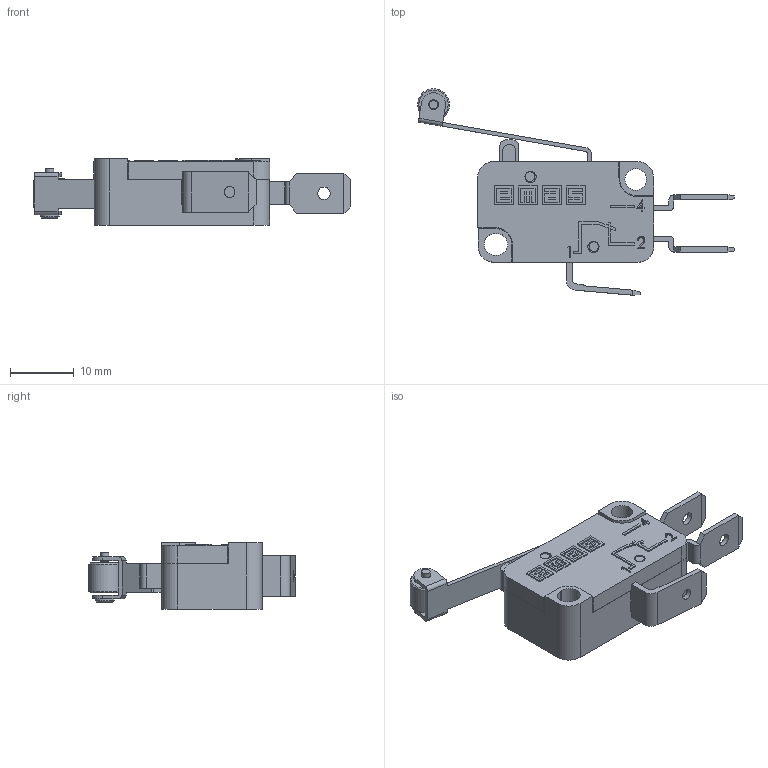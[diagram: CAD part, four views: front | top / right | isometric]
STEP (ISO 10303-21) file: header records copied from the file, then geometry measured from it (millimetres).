
FILE_DESCRIPTION((''),'2; 1');
FILE_NAME('','2026-03-27T16:20:25',(''),(''),'CST STEP Exporter V1.0','Unknown','');
FILE_SCHEMA(('CONFIG_CONTROL_DESIGN'));
Length unit declared in the file: metre
Assembly tree (12 placements, depth 2):
  (unnamed)
    (unnamed)
    (unnamed)
    (unnamed)
    (unnamed)
    (unnamed)
    (unnamed)
    (unnamed)
    (unnamed)
    (unnamed)
    (unnamed)
    (unnamed)
    (unnamed)
Bounding box: 49.8 x 32.46 x 10.4 mm (x, y, z)
Surface area: 7625.6 mm2 (no closed solid volume)
Topology: 0 solids, 12 shells, 305 faces, 1089 edges, 808 vertices
Faces by surface type: plane 252, cylinder 44, extrusion 6, cone 3
Full cylindrical faces by diameter (mm): 1.3 x1, 1.5 x3, 1.7 x1, 1.75 x2, 1.95 x2, 3 x1, 3.4 x1, 5 x1
Entity records: 14254 total; most frequent: CARTESIAN_POINT 2363, DIRECTION 1830, ORIENTED_EDGE 1786, EDGE_CURVE 1070, VECTOR 876, LINE 870, VERTEX_POINT 804, AXIS2_PLACEMENT_3D 477
